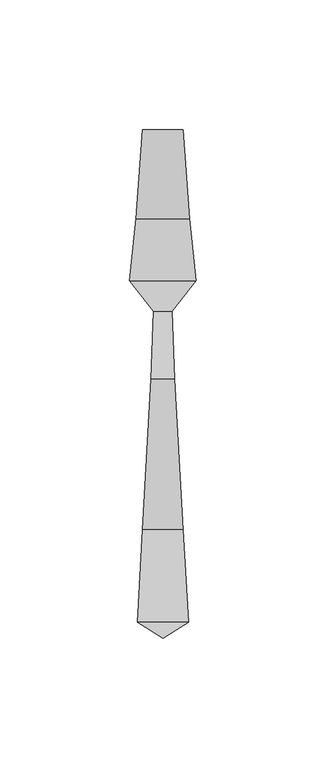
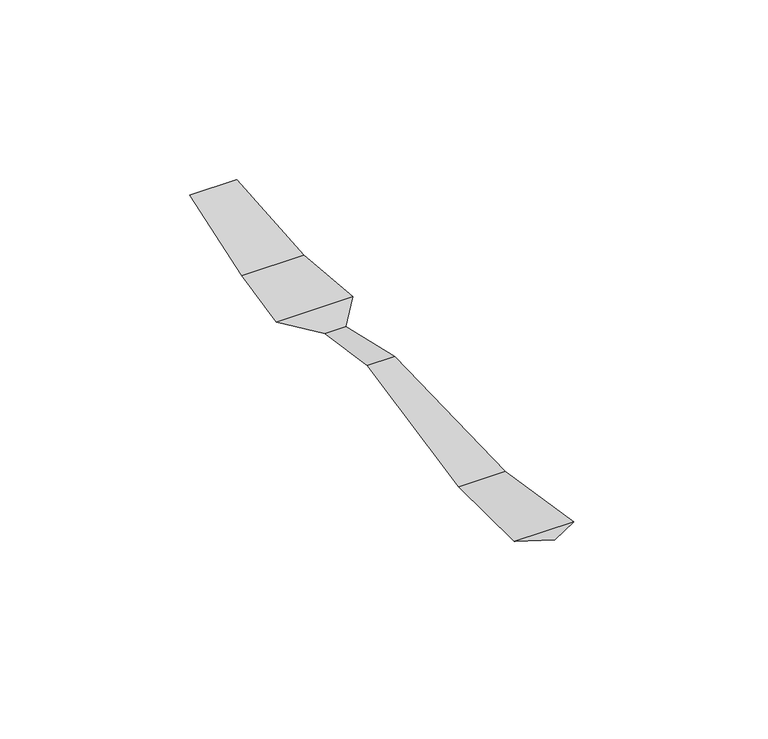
"""IFC4 building model written with IfcOpenShell, lengths in millimetres: geographic element geometry, Enscape AssetDefinition - Cutlery 001 Fork : Enscape AssetDefinition - Cutlery 001 Fork."""

from ifc_helpers import new_model, si_unit, origin, place, context, project, spatial, triangles, source, transform, mapped, element, save


def geographic_element_5908e057(model_context):
    return source(origin(), model_context, "Body", "Tessellation", [
        triangles([(-7.7679993, 97.910003, 10.7079992), (0.0, -97.527995, 5.9500002), (-4.5269999, 1.9949998, 8.2339996), (3.5179999, 28.1130006, 3.1169998), (4.5269999, 1.9949998, 8.2339996), (-7.7259995, -55.8330019, 2.0039998), (7.7259995, -55.8330019, 2.0039998), (-9.815999, -91.4029964, 5.1749998), (9.815999, -91.4029964, 5.1749998), (-3.5179999, 28.1130006, 3.1169998), (-12.7139996, 39.9530028, 3.2460001), (12.7139996, 39.9530028, 3.2460001), (10.2409992, 63.7999983, 4.2200001), (7.7679993, 97.910003, 10.7079992), (-10.2409992, 63.7999983, 4.2200001)], [[14, 1, 15], [15, 13, 14], [15, 11, 12], [12, 13, 15], [12, 11, 10], [10, 4, 12], [9, 8, 2], [8, 9, 7], [7, 6, 8], [6, 7, 5], [5, 3, 6], [4, 10, 3], [3, 5, 4]], closed=False),
    ])


if __name__ == "__main__":
    model = new_model("IFC4")
    model_context = context("Model", 3, world=origin())
    ifc_project = project(units=[si_unit("LENGTHUNIT", "METRE", prefix="MILLI")], contexts=[model_context])
    site = spatial("IfcSite", under=ifc_project)
    building = spatial("IfcBuilding", under=site)
    placement = place(None, origin())
    geographic_element_shape = geographic_element_5908e057(model_context)
    element("IfcGeographicElement", 1, ObjectType="Enscape AssetDefinition - Cutlery 001 Fork : Enscape AssetDefinition - Cutlery 001 Fork", at=placement, inside=building, context=model_context, shape_type="MappedRepresentation", body=[
        mapped(geographic_element_shape, transform((0.0, 0.0, 0.0), x_axis=(1.0, 0.0, 0.0), y_axis=(0.0, 1.0, 0.0), z_axis=(0.0, 0.0, 1.0))),
    ])
    save(model, "model.ifc")
